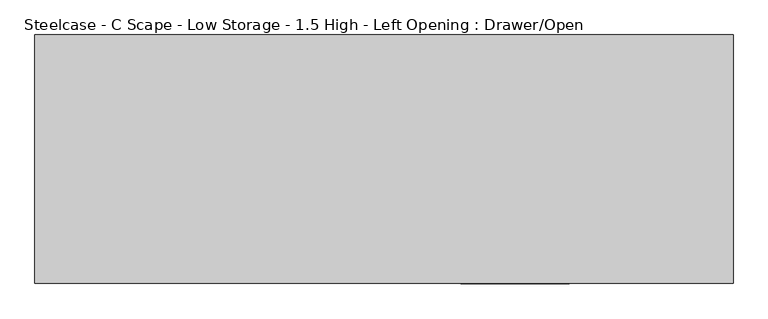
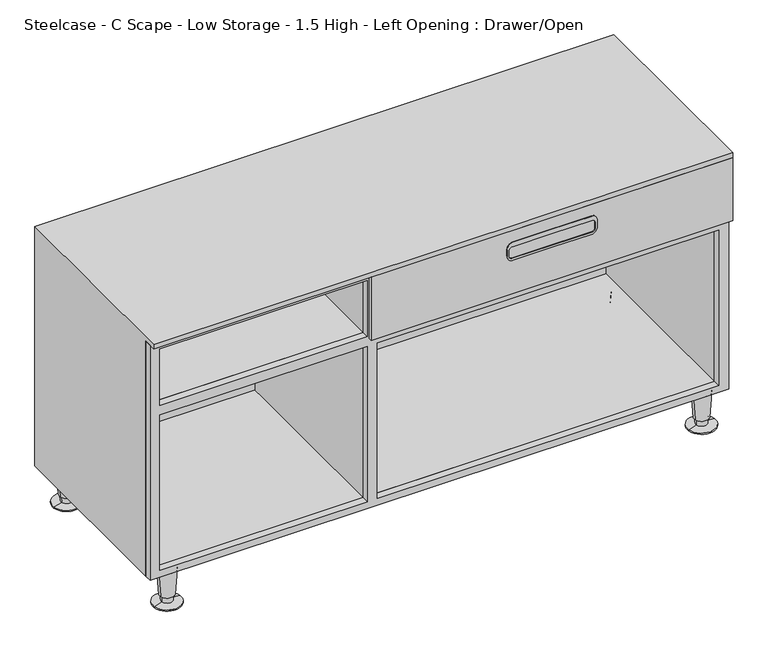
"""IFC4 building model written with IfcOpenShell, lengths in millimetres: furniture geometry, Steelcase - C Scape - Low Storage - 1.5 High - Left Opening : Drawer/Open."""

from ifc_helpers import new_model, si_unit, point, frame, frame_2d, origin, place, context, project, spatial, polyline, circle_curve, trimmed, segment, composite_curve, outline, extrude, faceted_brep, source, transform, mapped, element, save
from ifc_brep_helpers import plane_surface, cylinder_surface, revolved_surface, advanced_brep


def steelcase_c_scape_low_storage_1_5_high_left_opening_drawer_b7ad4eef(model_context):
    return source(origin(), model_context, "Body", "SolidModel", [
        extrude(outline(polyline([(76.2, 0.0), (76.2, 1217.93), (599.4400097, 1217.93), (599.4400097, 0.0), (76.2, 0.0)]), holes=[polyline([(91.4201587, 20.700907), (436.8419, 20.700907), (436.8419, 457.2), (91.4201587, 457.2), (91.4201587, 20.700907)]), polyline([(583.5451587, 1195.959248), (458.7875121, 1195.959248), (458.7875121, 478.1549612), (583.5451587, 478.1549612), (583.5451587, 1195.959248)]), polyline([(458.7875121, 20.700907), (583.5451587, 20.700907), (583.5451587, 457.2), (458.7875121, 457.2), (458.7875121, 20.700907)]), polyline([(91.4201587, 1195.959248), (91.4201587, 478.1549612), (436.8419, 478.1549612), (436.8419, 1195.959248), (91.4201587, 1195.959248)])]), frame((0.0, -419.3540543, 0.0), z_axis=(0.0, 1.0, 0.0), x_axis=(0.0, 0.0, 1.0)), (0.0, 0.0, 1.0), 14.9860039),
        extrude(outline(composite_curve([segment(trimmed(circle_curve(frame_2d((560.7050073, 755.3322442)), 12.7), [point((573.4050073, 755.3322442))], [point((560.7050073, 742.6322442))], False, "CARTESIAN"), True, "CONTINUOUS"), segment(polyline([(560.7050073, 742.6322442), (546.1000363, 742.6322442)]), True, "CONTINUOUS"), segment(trimmed(circle_curve(frame_2d((546.1000363, 755.3322442)), 12.7), [point((546.1000363, 742.6322442))], [point((533.4000363, 755.3322442))], False, "CARTESIAN"), True, "CONTINUOUS"), segment(polyline([(533.4000363, 755.3322442), (533.4000363, 837.565), (533.4000363, 919.7977558)]), True, "CONTINUOUS"), segment(trimmed(circle_curve(frame_2d((546.1000363, 919.7977558)), 12.7), [point((533.4000363, 919.7977558))], [point((546.1000363, 932.4977558))], False, "CARTESIAN"), True, "CONTINUOUS"), segment(polyline([(546.1000363, 932.4977558), (560.7050073, 932.4977558)]), True, "CONTINUOUS"), segment(trimmed(circle_curve(frame_2d((560.7050073, 919.7977558)), 12.7), [point((560.7050073, 932.4977558))], [point((573.4050073, 919.7977558))], False, "CARTESIAN"), True, "CONTINUOUS"), segment(polyline([(573.4050073, 919.7977558), (573.4050073, 837.565), (573.4050073, 755.3322442)]), True, "CONTINUOUS")], self_intersect=False), holes=[composite_curve([segment(trimmed(circle_curve(frame_2d((557.2760257, 753.8098565)), 6.35), [point((557.2760257, 747.4598565))], [point((563.6260257, 753.8098565))], True, "CARTESIAN"), True, "CONTINUOUS"), segment(polyline([(563.6260257, 753.8098565), (563.6260257, 837.565), (563.6260257, 921.3201435)]), True, "CONTINUOUS"), segment(trimmed(circle_curve(frame_2d((557.2760257, 921.3201435)), 6.35), [point((563.6260257, 921.3201435))], [point((557.2760257, 927.6701435))], True, "CARTESIAN"), True, "CONTINUOUS"), segment(polyline([(557.2760257, 927.6701435), (544.5760136, 927.6701435)]), True, "CONTINUOUS"), segment(trimmed(circle_curve(frame_2d((544.5760136, 921.3201435)), 6.35), [point((544.5760136, 927.6701435))], [point((538.2260136, 921.3201435))], True, "CARTESIAN"), True, "CONTINUOUS"), segment(polyline([(538.2260136, 921.3201435), (538.2260136, 837.565), (538.2260136, 753.8098565)]), True, "CONTINUOUS"), segment(trimmed(circle_curve(frame_2d((544.5760136, 753.8098565)), 6.35), [point((538.2260136, 753.8098565))], [point((544.5760136, 747.4598565))], True, "CARTESIAN"), True, "CONTINUOUS"), segment(polyline([(544.5760136, 747.4598565), (557.2760257, 747.4598565)]), True, "CONTINUOUS")], self_intersect=False)]), frame((0.0, -434.34, 0.0), z_axis=(0.0, 1.0, 0.0), x_axis=(0.0, 0.0, 1.0)), (0.0, 0.0, 1.0), 6.35),
        advanced_brep(
        [(1190.0494568, -31.5218435, 76.2), (1152.3877179, -37.2840847, 76.2), (1171.2185874, -34.4029641, 76.2), (1186.0991088, -32.1262463, 19.05), (1156.3380659, -36.6796819, 19.05), (1183.6695219, -32.4979728, 19.05), (1158.7676529, -36.3079555, 19.05), (1182.9807524, -32.6033544, 5.7545598), (1159.4564224, -36.2025738, 5.7545598), (1200.3296359, -29.9489775, 2.5119506), (1142.1075389, -38.8569507, 2.5119506), (1200.3296359, -29.9489775, 0.0), (1142.1075389, -38.8569507, 0.0), (1171.2185874, -34.4029641, 0.0)],
        [
            (0, 1, circle_curve(frame((1171.2185874, -34.4029641, 76.2), z_axis=(0.0, 0.0, 1.0), x_axis=(0.0, -1.0, 0.0)), 19.05)),
            (1, 2),
            (2, 0),
            (1, 0, circle_curve(frame((1171.2185874, -34.4029641, 76.2), z_axis=(0.0, 0.0, 1.0), x_axis=(0.0, -1.0, 0.0)), 19.05)),
            (3, 4, circle_curve(frame((1171.2185874, -34.4029641, 19.05), z_axis=(0.0, 0.0, 1.0), x_axis=(0.0, -1.0, 0.0)), 15.0536827)),
            (4, 1),
            (0, 3),
            (4, 3, circle_curve(frame((1171.2185874, -34.4029641, 19.05), z_axis=(0.0, 0.0, 1.0), x_axis=(0.0, -1.0, 0.0)), 15.0536827)),
            (5, 6, circle_curve(frame((1171.2185874, -34.4029641, 19.05), z_axis=(0.0, 0.0, 1.0), x_axis=(0.0, -1.0, 0.0)), 12.5958232)),
            (6, 4),
            (3, 5),
            (6, 5, circle_curve(frame((1171.2185874, -34.4029641, 19.05), z_axis=(0.0, 0.0, 1.0), x_axis=(0.0, -1.0, 0.0)), 12.5958232)),
            (7, 8, circle_curve(frame((1171.2185874, -34.4029641, 5.7545598), z_axis=(0.0, 0.0, 1.0), x_axis=(0.0, -1.0, 0.0)), 11.8990387)),
            (8, 6),
            (5, 7),
            (8, 7, circle_curve(frame((1171.2185874, -34.4029641, 5.7545598), z_axis=(0.0, 0.0, 1.0), x_axis=(0.0, -1.0, 0.0)), 11.8990387)),
            (9, 10, circle_curve(frame((1171.2185874, -34.4029641, 2.5119506), z_axis=(0.0, 0.0, 1.0), x_axis=(0.0, -1.0, 0.0)), 29.4498071)),
            (10, 8),
            (7, 9),
            (10, 9, circle_curve(frame((1171.2185874, -34.4029641, 2.5119506), z_axis=(0.0, 0.0, 1.0), x_axis=(0.0, -1.0, 0.0)), 29.4498071)),
            (11, 12, circle_curve(frame((1171.2185874, -34.4029641, 0.0), z_axis=(0.0, 0.0, 1.0), x_axis=(0.0, -1.0, 0.0)), 29.4498071)),
            (12, 10),
            (9, 11),
            (12, 11, circle_curve(frame((1171.2185874, -34.4029641, 0.0), z_axis=(0.0, 0.0, 1.0), x_axis=(0.0, -1.0, 0.0)), 29.4498071)),
            (13, 12),
            (11, 13),
        ],
        [
            plane_surface(frame((1171.2185874, -34.4029641, 76.2), z_axis=(0.0, 0.0, 1.0), x_axis=(0.0, -1.0, 0.0))),
            revolved_surface(polyline([(1171.2185874, -53.4529641, 76.2), (1171.2185874, -49.4566468, 19.05)]), (1171.2185874, -34.4029641, 25.4), (0.0, 0.0, -1.0)),
            plane_surface(frame((1171.2185874, -34.4029641, 19.05), z_axis=(0.0, 0.0, -1.0), x_axis=(0.0, -1.0, 0.0))),
            revolved_surface(polyline([(1171.2185874, -46.9987873, 19.05), (1171.2185874, -46.3020028, 5.7545598)]), (1171.2185874, -34.4029641, 25.4), (0.0, 0.0, -1.0)),
            revolved_surface(polyline([(1171.2185874, -46.3020028, 5.7545598), (1171.2185874, -63.8527712, 2.5119506)]), (1171.2185874, -34.4029641, 25.4), (0.0, 0.0, -1.0)),
            cylinder_surface(frame((1171.2185874, -34.4029641, 25.4), z_axis=(0.0, 0.0, -1.0), x_axis=(0.0, -1.0, 0.0)), 29.4498071),
            plane_surface(frame((1171.2185874, -34.4029641, 0.0), z_axis=(0.0, 0.0, -1.0), x_axis=(0.0, -1.0, 0.0))),
        ],
        [
            (0, [[1, 2, 3]]),
            (0, [[4, -3, -2]]),
            (1, [[5, 6, -1, 7]]),
            (1, [[8, -7, -4, -6]]),
            (2, [[9, 10, -5, 11]]),
            (2, [[12, -11, -8, -10]]),
            (3, [[13, 14, -9, 15]]),
            (3, [[16, -15, -12, -14]]),
            (4, [[17, 18, -13, 19]]),
            (4, [[20, -19, -16, -18]]),
            (5, [[21, 22, -17, 23]]),
            (5, [[24, -23, -20, -22]]),
            (6, [[25, -21, 26]]),
            (6, [[-26, -24, -25]]),
        ],
    ),
        advanced_brep(
        [(1190.0494568, -397.1702762, 76.2), (1152.3877179, -402.9325174, 76.2), (1171.2185874, -400.0513968, 76.2), (1186.0991088, -397.774679, 19.05), (1156.3380659, -402.3281146, 19.05), (1183.6695219, -398.1464055, 19.05), (1158.7676529, -401.9563882, 19.05), (1182.9807524, -398.2517871, 5.7545598), (1159.4564224, -401.8510065, 5.7545598), (1200.3296359, -395.5974102, 2.5119506), (1142.1075389, -404.5053834, 2.5119506), (1200.3296359, -395.5974102, 0.0), (1142.1075389, -404.5053834, 0.0), (1171.2185874, -400.0513968, 0.0)],
        [
            (0, 1, circle_curve(frame((1171.2185874, -400.0513968, 76.2), z_axis=(0.0, 0.0, 1.0), x_axis=(0.0, -1.0, 0.0)), 19.05)),
            (1, 2),
            (2, 0),
            (1, 0, circle_curve(frame((1171.2185874, -400.0513968, 76.2), z_axis=(0.0, 0.0, 1.0), x_axis=(0.0, -1.0, 0.0)), 19.05)),
            (3, 4, circle_curve(frame((1171.2185874, -400.0513968, 19.05), z_axis=(0.0, 0.0, 1.0), x_axis=(0.0, -1.0, 0.0)), 15.0536827)),
            (4, 1),
            (0, 3),
            (4, 3, circle_curve(frame((1171.2185874, -400.0513968, 19.05), z_axis=(0.0, 0.0, 1.0), x_axis=(0.0, -1.0, 0.0)), 15.0536827)),
            (5, 6, circle_curve(frame((1171.2185874, -400.0513968, 19.05), z_axis=(0.0, 0.0, 1.0), x_axis=(0.0, -1.0, 0.0)), 12.5958232)),
            (6, 4),
            (3, 5),
            (6, 5, circle_curve(frame((1171.2185874, -400.0513968, 19.05), z_axis=(0.0, 0.0, 1.0), x_axis=(0.0, -1.0, 0.0)), 12.5958232)),
            (7, 8, circle_curve(frame((1171.2185874, -400.0513968, 5.7545598), z_axis=(0.0, 0.0, 1.0), x_axis=(0.0, -1.0, 0.0)), 11.8990387)),
            (8, 6),
            (5, 7),
            (8, 7, circle_curve(frame((1171.2185874, -400.0513968, 5.7545598), z_axis=(0.0, 0.0, 1.0), x_axis=(0.0, -1.0, 0.0)), 11.8990387)),
            (9, 10, circle_curve(frame((1171.2185874, -400.0513968, 2.5119506), z_axis=(0.0, 0.0, 1.0), x_axis=(0.0, -1.0, 0.0)), 29.4498071)),
            (10, 8),
            (7, 9),
            (10, 9, circle_curve(frame((1171.2185874, -400.0513968, 2.5119506), z_axis=(0.0, 0.0, 1.0), x_axis=(0.0, -1.0, 0.0)), 29.4498071)),
            (11, 12, circle_curve(frame((1171.2185874, -400.0513968, 0.0), z_axis=(0.0, 0.0, 1.0), x_axis=(0.0, -1.0, 0.0)), 29.4498071)),
            (12, 10),
            (9, 11),
            (12, 11, circle_curve(frame((1171.2185874, -400.0513968, 0.0), z_axis=(0.0, 0.0, 1.0), x_axis=(0.0, -1.0, 0.0)), 29.4498071)),
            (13, 12),
            (11, 13),
        ],
        [
            plane_surface(frame((1171.2185874, -400.0513968, 76.2), z_axis=(0.0, 0.0, 1.0), x_axis=(0.0, -1.0, 0.0))),
            revolved_surface(polyline([(1171.2185874, -419.1013968, 76.2), (1171.2185874, -415.1050795, 19.05)]), (1171.2185874, -400.0513968, 25.4), (0.0, 0.0, -1.0)),
            plane_surface(frame((1171.2185874, -400.0513968, 19.05), z_axis=(0.0, 0.0, -1.0), x_axis=(0.0, -1.0, 0.0))),
            revolved_surface(polyline([(1171.2185874, -412.64722, 19.05), (1171.2185874, -411.9504355, 5.7545598)]), (1171.2185874, -400.0513968, 25.4), (0.0, 0.0, -1.0)),
            revolved_surface(polyline([(1171.2185874, -411.9504355, 5.7545598), (1171.2185874, -429.5012039, 2.5119506)]), (1171.2185874, -400.0513968, 25.4), (0.0, 0.0, -1.0)),
            cylinder_surface(frame((1171.2185874, -400.0513968, 25.4), z_axis=(0.0, 0.0, -1.0), x_axis=(0.0, -1.0, 0.0)), 29.4498071),
            plane_surface(frame((1171.2185874, -400.0513968, 0.0), z_axis=(0.0, 0.0, -1.0), x_axis=(0.0, -1.0, 0.0))),
        ],
        [
            (0, [[1, 2, 3]]),
            (0, [[4, -3, -2]]),
            (1, [[5, 6, -1, 7]]),
            (1, [[8, -7, -4, -6]]),
            (2, [[9, 10, -5, 11]]),
            (2, [[12, -11, -8, -10]]),
            (3, [[13, 14, -9, 15]]),
            (3, [[16, -15, -12, -14]]),
            (4, [[17, 18, -13, 19]]),
            (4, [[20, -19, -16, -18]]),
            (5, [[21, 22, -17, 23]]),
            (5, [[24, -23, -20, -22]]),
            (6, [[25, -21, 26]]),
            (6, [[-26, -24, -25]]),
        ],
    ),
        advanced_brep(
        [(65.6621195, -397.1702762, 76.2), (28.0003805, -402.9325174, 76.2), (46.83125, -400.0513968, 76.2), (61.7117714, -397.774679, 19.05), (31.9507286, -402.3281146, 19.05), (59.2821845, -398.1464055, 19.05), (34.3803155, -401.9563882, 19.05), (58.593415, -398.2517871, 5.7545598), (35.069085, -401.8510065, 5.7545598), (75.9422985, -395.5974102, 2.5119506), (17.7202015, -404.5053834, 2.5119506), (75.9422985, -395.5974102, 0.0), (17.7202015, -404.5053834, 0.0), (46.83125, -400.0513968, 0.0)],
        [
            (0, 1, circle_curve(frame((46.83125, -400.0513968, 76.2), z_axis=(0.0, 0.0, 1.0), x_axis=(0.0, -1.0, 0.0)), 19.05)),
            (1, 2),
            (2, 0),
            (1, 0, circle_curve(frame((46.83125, -400.0513968, 76.2), z_axis=(0.0, 0.0, 1.0), x_axis=(0.0, -1.0, 0.0)), 19.05)),
            (3, 4, circle_curve(frame((46.83125, -400.0513968, 19.05), z_axis=(0.0, 0.0, 1.0), x_axis=(0.0, -1.0, 0.0)), 15.0536827)),
            (4, 1),
            (0, 3),
            (4, 3, circle_curve(frame((46.83125, -400.0513968, 19.05), z_axis=(0.0, 0.0, 1.0), x_axis=(0.0, -1.0, 0.0)), 15.0536827)),
            (5, 6, circle_curve(frame((46.83125, -400.0513968, 19.05), z_axis=(0.0, 0.0, 1.0), x_axis=(0.0, -1.0, 0.0)), 12.5958232)),
            (6, 4),
            (3, 5),
            (6, 5, circle_curve(frame((46.83125, -400.0513968, 19.05), z_axis=(0.0, 0.0, 1.0), x_axis=(0.0, -1.0, 0.0)), 12.5958232)),
            (7, 8, circle_curve(frame((46.83125, -400.0513968, 5.7545598), z_axis=(0.0, 0.0, 1.0), x_axis=(0.0, -1.0, 0.0)), 11.8990387)),
            (8, 6),
            (5, 7),
            (8, 7, circle_curve(frame((46.83125, -400.0513968, 5.7545598), z_axis=(0.0, 0.0, 1.0), x_axis=(0.0, -1.0, 0.0)), 11.8990387)),
            (9, 10, circle_curve(frame((46.83125, -400.0513968, 2.5119506), z_axis=(0.0, 0.0, 1.0), x_axis=(0.0, -1.0, 0.0)), 29.4498071)),
            (10, 8),
            (7, 9),
            (10, 9, circle_curve(frame((46.83125, -400.0513968, 2.5119506), z_axis=(0.0, 0.0, 1.0), x_axis=(0.0, -1.0, 0.0)), 29.4498071)),
            (11, 12, circle_curve(frame((46.83125, -400.0513968, 0.0), z_axis=(0.0, 0.0, 1.0), x_axis=(0.0, -1.0, 0.0)), 29.4498071)),
            (12, 10),
            (9, 11),
            (12, 11, circle_curve(frame((46.83125, -400.0513968, 0.0), z_axis=(0.0, 0.0, 1.0), x_axis=(0.0, -1.0, 0.0)), 29.4498071)),
            (13, 12),
            (11, 13),
        ],
        [
            plane_surface(frame((46.83125, -400.0513968, 76.2), z_axis=(0.0, 0.0, 1.0), x_axis=(0.0, -1.0, 0.0))),
            revolved_surface(polyline([(46.83125, -419.1013968, 76.2), (46.83125, -415.1050795, 19.05)]), (46.83125, -400.0513968, 25.4), (0.0, 0.0, -1.0)),
            plane_surface(frame((46.83125, -400.0513968, 19.05), z_axis=(0.0, 0.0, -1.0), x_axis=(0.0, -1.0, 0.0))),
            revolved_surface(polyline([(46.83125, -412.64722, 19.05), (46.83125, -411.9504355, 5.7545598)]), (46.83125, -400.0513968, 25.4), (0.0, 0.0, -1.0)),
            revolved_surface(polyline([(46.83125, -411.9504355, 5.7545598), (46.83125, -429.5012039, 2.5119506)]), (46.83125, -400.0513968, 25.4), (0.0, 0.0, -1.0)),
            cylinder_surface(frame((46.83125, -400.0513968, 25.4), z_axis=(0.0, 0.0, -1.0), x_axis=(0.0, -1.0, 0.0)), 29.4498071),
            plane_surface(frame((46.83125, -400.0513968, 0.0), z_axis=(0.0, 0.0, -1.0), x_axis=(0.0, -1.0, 0.0))),
        ],
        [
            (0, [[1, 2, 3]]),
            (0, [[4, -3, -2]]),
            (1, [[5, 6, -1, 7]]),
            (1, [[8, -7, -4, -6]]),
            (2, [[9, 10, -5, 11]]),
            (2, [[12, -11, -8, -10]]),
            (3, [[13, 14, -9, 15]]),
            (3, [[16, -15, -12, -14]]),
            (4, [[17, 18, -13, 19]]),
            (4, [[20, -19, -16, -18]]),
            (5, [[21, 22, -17, 23]]),
            (5, [[24, -23, -20, -22]]),
            (6, [[25, -21, 26]]),
            (6, [[-26, -24, -25]]),
        ],
    ),
        advanced_brep(
        [(65.6621195, -31.5218435, 76.2), (28.0003805, -37.2840847, 76.2), (46.83125, -34.4029641, 76.2), (61.7117714, -32.1262463, 19.05), (31.9507286, -36.6796819, 19.05), (59.2821845, -32.4979728, 19.05), (34.3803155, -36.3079555, 19.05), (58.593415, -32.6033544, 5.7545598), (35.069085, -36.2025738, 5.7545598), (75.9422985, -29.9489775, 2.5119506), (17.7202015, -38.8569507, 2.5119506), (75.9422985, -29.9489775, 0.0), (17.7202015, -38.8569507, 0.0), (46.83125, -34.4029641, 0.0)],
        [
            (0, 1, circle_curve(frame((46.83125, -34.4029641, 76.2), z_axis=(0.0, 0.0, 1.0), x_axis=(0.0, -1.0, 0.0)), 19.05)),
            (1, 2),
            (2, 0),
            (1, 0, circle_curve(frame((46.83125, -34.4029641, 76.2), z_axis=(0.0, 0.0, 1.0), x_axis=(0.0, -1.0, 0.0)), 19.05)),
            (3, 4, circle_curve(frame((46.83125, -34.4029641, 19.05), z_axis=(0.0, 0.0, 1.0), x_axis=(0.0, -1.0, 0.0)), 15.0536827)),
            (4, 1),
            (0, 3),
            (4, 3, circle_curve(frame((46.83125, -34.4029641, 19.05), z_axis=(0.0, 0.0, 1.0), x_axis=(0.0, -1.0, 0.0)), 15.0536827)),
            (5, 6, circle_curve(frame((46.83125, -34.4029641, 19.05), z_axis=(0.0, 0.0, 1.0), x_axis=(0.0, -1.0, 0.0)), 12.5958232)),
            (6, 4),
            (3, 5),
            (6, 5, circle_curve(frame((46.83125, -34.4029641, 19.05), z_axis=(0.0, 0.0, 1.0), x_axis=(0.0, -1.0, 0.0)), 12.5958232)),
            (7, 8, circle_curve(frame((46.83125, -34.4029641, 5.7545598), z_axis=(0.0, 0.0, 1.0), x_axis=(0.0, -1.0, 0.0)), 11.8990387)),
            (8, 6),
            (5, 7),
            (8, 7, circle_curve(frame((46.83125, -34.4029641, 5.7545598), z_axis=(0.0, 0.0, 1.0), x_axis=(0.0, -1.0, 0.0)), 11.8990387)),
            (9, 10, circle_curve(frame((46.83125, -34.4029641, 2.5119506), z_axis=(0.0, 0.0, 1.0), x_axis=(0.0, -1.0, 0.0)), 29.4498071)),
            (10, 8),
            (7, 9),
            (10, 9, circle_curve(frame((46.83125, -34.4029641, 2.5119506), z_axis=(0.0, 0.0, 1.0), x_axis=(0.0, -1.0, 0.0)), 29.4498071)),
            (11, 12, circle_curve(frame((46.83125, -34.4029641, 0.0), z_axis=(0.0, 0.0, 1.0), x_axis=(0.0, -1.0, 0.0)), 29.4498071)),
            (12, 10),
            (9, 11),
            (12, 11, circle_curve(frame((46.83125, -34.4029641, 0.0), z_axis=(0.0, 0.0, 1.0), x_axis=(0.0, -1.0, 0.0)), 29.4498071)),
            (13, 12),
            (11, 13),
        ],
        [
            plane_surface(frame((46.83125, -34.4029641, 76.2), z_axis=(0.0, 0.0, 1.0), x_axis=(0.0, -1.0, 0.0))),
            revolved_surface(polyline([(46.83125, -53.4529641, 76.2), (46.83125, -49.4566468, 19.05)]), (46.83125, -34.4029641, 25.4), (0.0, 0.0, -1.0)),
            plane_surface(frame((46.83125, -34.4029641, 19.05), z_axis=(0.0, 0.0, -1.0), x_axis=(0.0, -1.0, 0.0))),
            revolved_surface(polyline([(46.83125, -46.9987873, 19.05), (46.83125, -46.3020028, 5.7545598)]), (46.83125, -34.4029641, 25.4), (0.0, 0.0, -1.0)),
            revolved_surface(polyline([(46.83125, -46.3020028, 5.7545598), (46.83125, -63.8527712, 2.5119506)]), (46.83125, -34.4029641, 25.4), (0.0, 0.0, -1.0)),
            cylinder_surface(frame((46.83125, -34.4029641, 25.4), z_axis=(0.0, 0.0, -1.0), x_axis=(0.0, -1.0, 0.0)), 29.4498071),
            plane_surface(frame((46.83125, -34.4029641, 0.0), z_axis=(0.0, 0.0, -1.0), x_axis=(0.0, -1.0, 0.0))),
        ],
        [
            (0, [[1, 2, 3]]),
            (0, [[4, -3, -2]]),
            (1, [[5, 6, -1, 7]]),
            (1, [[8, -7, -4, -6]]),
            (2, [[9, 10, -5, 11]]),
            (2, [[12, -11, -8, -10]]),
            (3, [[13, 14, -9, 15]]),
            (3, [[16, -15, -12, -14]]),
            (4, [[17, 18, -13, 19]]),
            (4, [[20, -19, -16, -18]]),
            (5, [[21, 22, -17, 23]]),
            (5, [[24, -23, -20, -22]]),
            (6, [[25, -21, 26]]),
            (6, [[-26, -24, -25]]),
        ],
    ),
        faceted_brep([(0.0, 0.0, 76.2), (0.0, -404.3680504, 76.2), (0.0, -404.3680504, 599.4400097), (0.0, -433.07, 599.4400097), (0.0, -433.07, 609.6), (0.0, 0.0, 609.6), (1217.93, -404.3680504, 76.2), (1217.93, -404.3680504, 599.4400097), (1195.959248, -404.3680504, 599.4400097), (1195.959248, -404.3680504, 458.7875121), (463.5487203, -404.3680504, 458.7875121), (463.5487203, -404.3680504, 599.4400097), (457.2, -404.3680504, 599.4400097), (457.2, -404.3680504, 458.7875121), (20.700907, -404.3680504, 458.7875121), (20.700907, -404.3680504, 599.4400097), (1195.959248, -404.3680504, 91.4201587), (463.5487203, -404.3680504, 91.4201587), (463.5487203, -404.3680504, 436.8419), (1195.959248, -404.3680504, 436.8419), (457.2, -404.3680504, 91.4201587), (20.700907, -404.3680504, 91.4201587), (20.700907, -404.3680504, 436.8419), (457.2, -404.3680504, 436.8419), (20.700907, -9.525, 91.4201587), (20.700907, -9.525, 436.8419), (20.700907, -9.525, 458.7875121), (20.700907, -9.525, 599.4400097), (457.2, -9.525, 91.4201587), (457.2, -9.525, 436.8419), (457.2, -9.525, 458.7875121), (457.2, -9.525, 599.4400097), (463.5487203, -9.525, 91.4201587), (463.5487203, -9.525, 436.8419), (463.5487203, -9.525, 458.7875121), (463.5487203, -9.525, 599.4400097), (1195.959248, -9.525, 91.4201587), (1195.959248, -9.525, 436.8419), (1195.959248, -9.525, 458.7875121), (1195.959248, -9.525, 599.4400097), (1217.93, 0.0, 76.2), (1217.93, 0.0, 609.6), (1217.93, -433.07, 609.6), (1217.93, -433.07, 599.4400097)], [[[0, 1, 2, 3, 4, 5]], [[1, 6, 7, 8, 9, 10, 11, 12, 13, 14, 15, 2], [16, 17, 18, 19], [20, 21, 22, 23]], [[21, 24, 25, 22]], [[14, 26, 27, 15]], [[24, 28, 29, 25]], [[26, 30, 31, 27]], [[28, 20, 23, 29]], [[30, 13, 12, 31]], [[17, 32, 33, 18]], [[10, 34, 35, 11]], [[32, 36, 37, 33]], [[34, 38, 39, 35]], [[36, 16, 19, 37]], [[38, 9, 8, 39]], [[6, 40, 41, 42, 43, 7]], [[41, 40, 0, 5]], [[17, 16, 36, 32]], [[21, 20, 28, 24]], [[0, 40, 6, 1]], [[10, 9, 38, 34]], [[14, 13, 30, 26]], [[19, 18, 33, 37]], [[23, 22, 25, 29]], [[5, 4, 42, 41]], [[43, 3, 2, 15, 27, 31, 12, 11, 35, 39, 8, 7]], [[42, 4, 3, 43]]]),
        extrude(outline(polyline([(457.2, -426.7186111), (1217.93, -426.7186111), (1217.93, -433.07), (457.2, -433.07), (457.2, -426.7186111)])), frame((0.0, 0.0, 458.7875121), z_axis=(0.0, 0.0, 1.0), x_axis=(1.0, 0.0, 0.0)), (0.0, 0.0, 1.0), 140.6524976),
    ])


if __name__ == "__main__":
    model = new_model("IFC4")
    model_context = context("Model", 3, world=origin())
    ifc_project = project(units=[si_unit("LENGTHUNIT", "METRE", prefix="MILLI")], contexts=[model_context])
    site = spatial("IfcSite", under=ifc_project)
    building = spatial("IfcBuilding", under=site)
    placement = place(None, origin())
    steelcase_c_scape_low_storage_1_5_high_left_opening_drawer_shape = steelcase_c_scape_low_storage_1_5_high_left_opening_drawer_b7ad4eef(model_context)
    element("IfcFurniture", 1, ObjectType="Steelcase - C Scape - Low Storage - 1.5 High - Left Opening : Drawer/Open", at=placement, inside=building, context=model_context, shape_type="MappedRepresentation", body=[
        mapped(steelcase_c_scape_low_storage_1_5_high_left_opening_drawer_shape, transform((0.0, 0.0, 0.0), x_axis=(1.0, 0.0, 0.0), y_axis=(0.0, 1.0, 0.0), z_axis=(0.0, 0.0, 1.0))),
    ])
    save(model, "model.ifc")
